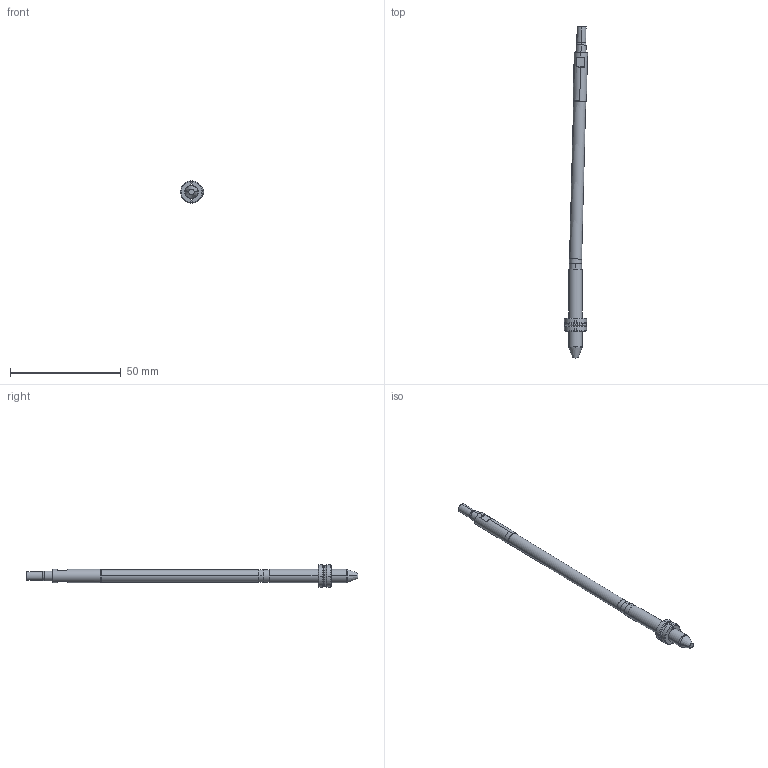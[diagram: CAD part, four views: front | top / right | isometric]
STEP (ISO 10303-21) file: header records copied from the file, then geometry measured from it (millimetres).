
FILE_DESCRIPTION (( 'STEP AP214' ), '1' );
FILE_NAME ('WP060060-EJE 1,5°.STEP', '2021-03-19T15:15:48', ( '' ), ( '' ), 'SwSTEP 2.0', 'SolidWorks 2019', '' );
FILE_SCHEMA (( 'AUTOMOTIVE_DESIGN' ));
Length unit declared in the file: millimetre
Products named in the file (6): WEB-006-9WP060030-6; WEB-007-9WP060060-F_WP060060-F-ON 1,5ø; WEB-001-9WP060030-1; WP060060-EJE 1,5°; WEB-008-JUNTA-JT7X1X9; WEB-002-9WP060030-2
Assembly tree (5 placements, depth 2):
  WP060060-EJE 1,5°
    WEB-001-9WP060030-1
    WEB-007-9WP060060-F_WP060060-F-ON 1,5ø
    WEB-002-9WP060030-2
    WEB-006-9WP060030-6
    WEB-008-JUNTA-JT7X1X9
Bounding box: 10.46 x 149.81 x 9.99 mm (x, y, z)
Volume: 3873.9 mm3; surface area: 3434.3 mm2
Topology: 6 solids, 6 shells, 112 faces, 262 edges, 164 vertices
Faces by surface type: cylinder 36, cone 28, plane 28, torus 20
Entity records: 3723 total; most frequent: CARTESIAN_POINT 714, DIRECTION 598, ORIENTED_EDGE 524, EDGE_CURVE 262, AXIS2_PLACEMENT_3D 256, VERTEX_POINT 164, CIRCLE 136, EDGE_LOOP 116
